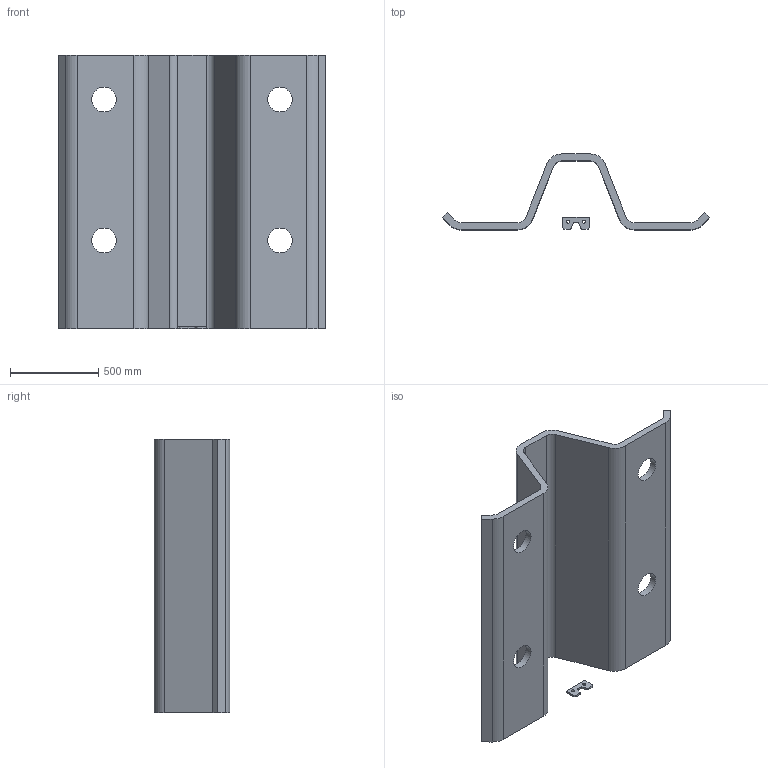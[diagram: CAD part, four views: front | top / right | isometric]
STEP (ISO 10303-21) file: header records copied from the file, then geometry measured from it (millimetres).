
FILE_DESCRIPTION(/* description */ (''),/* implementation_level */ '2;1');
FILE_NAME(/* name */ 'ZB170W90.stp',/* time_stamp */ '2023-07-03T11:23:42+02:00',/* author */ ('woriedl'),/* organization */ (''),/* preprocessor_version */ 'ST-DEVELOPER v19.2',/* originating_system */ 'AutoCAD Mechanical',/* authorisation */ '');
FILE_SCHEMA (('AUTOMOTIVE_DESIGN { 1 0 10303 214 3 1 1 }'));
Length unit declared in the file: centimetre
Products named in the file (2): Product; ZC170
Assembly tree (1 placements, depth 2):
  Product
    ZC170
Bounding box: 1517.2 x 430 x 1550 mm (x, y, z)
Volume: 122749685.1 mm3; surface area: 6511480.9 mm2
Topology: 2 solids, 2 shells, 54 faces, 150 edges, 100 vertices
Faces by surface type: plane 30, cylinder 24
Full cylindrical faces by diameter (mm): 18 x2, 140 x4
Entity records: 1810 total; most frequent: DIRECTION 312, CARTESIAN_POINT 307, ORIENTED_EDGE 300, EDGE_CURVE 150, AXIS2_PLACEMENT_3D 105, LINE 102, VECTOR 102, VERTEX_POINT 100
